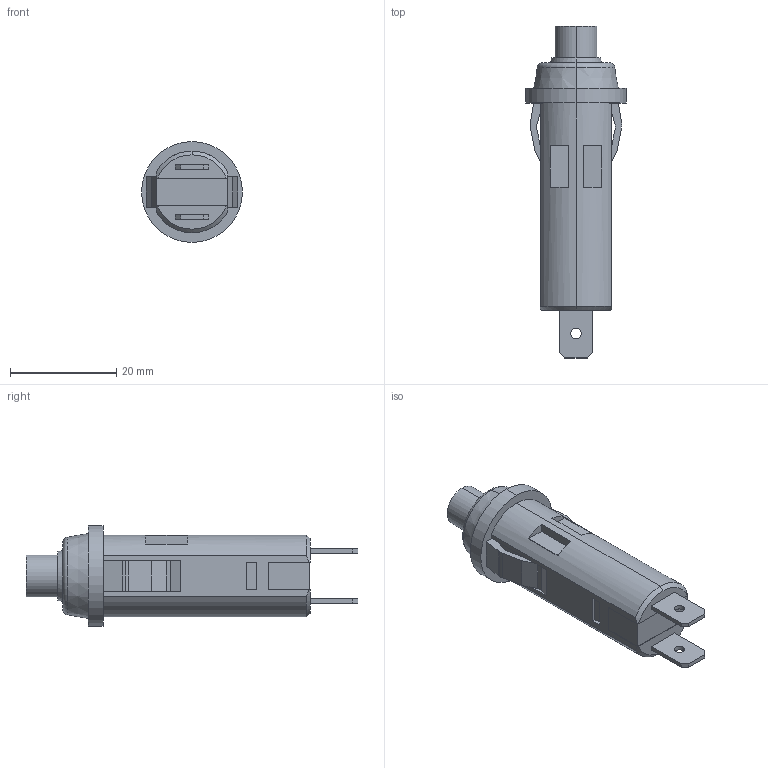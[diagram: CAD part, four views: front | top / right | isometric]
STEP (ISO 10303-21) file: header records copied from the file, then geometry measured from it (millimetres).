
FILE_DESCRIPTION (( 'STEP AP203' ), '1' );
FILE_NAME ('DCP21HI.STEP', '2021-04-06T09:10:14', ( '' ), ( '' ), 'SwSTEP 2.0', 'SolidWorks 2019', '' );
FILE_SCHEMA (( 'CONFIG_CONTROL_DESIGN' ));
Length unit declared in the file: millimetre
Products named in the file (3): DCP21HI; Base+Terminal; Front Cover+ Buttone
Assembly tree (2 placements, depth 2):
  DCP21HI
    Base+Terminal
    Front Cover+ Buttone
Bounding box: 19 x 62.5 x 19 mm (x, y, z)
Volume: 8932.5 mm3; surface area: 3934.1 mm2
Topology: 2 solids, 2 shells, 101 faces, 255 edges, 169 vertices
Faces by surface type: plane 75, cylinder 17, cone 7, torus 2
Entity records: 3339 total; most frequent: CARTESIAN_POINT 554, DIRECTION 512, ORIENTED_EDGE 510, EDGE_CURVE 255, VECTOR 194, LINE 194, VERTEX_POINT 169, AXIS2_PLACEMENT_3D 159
